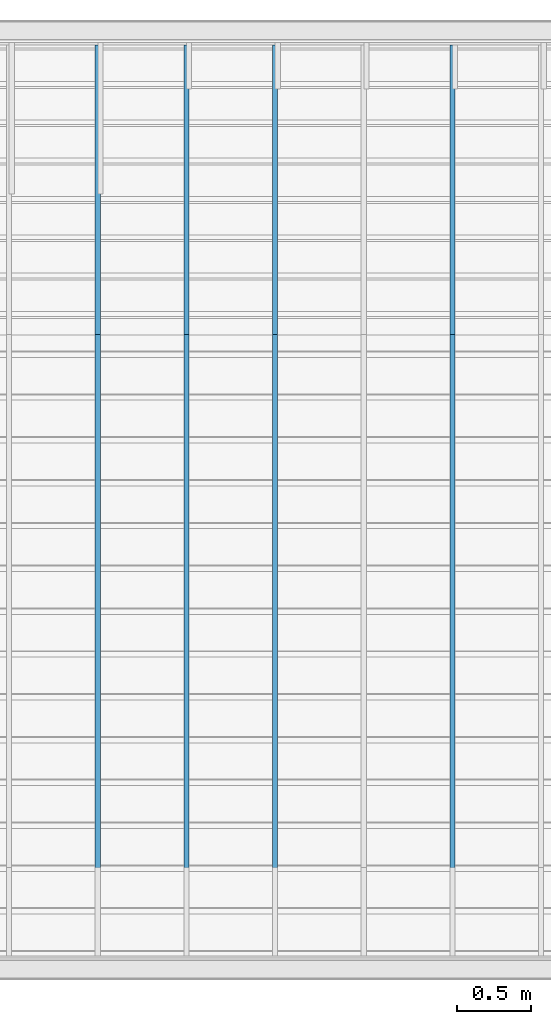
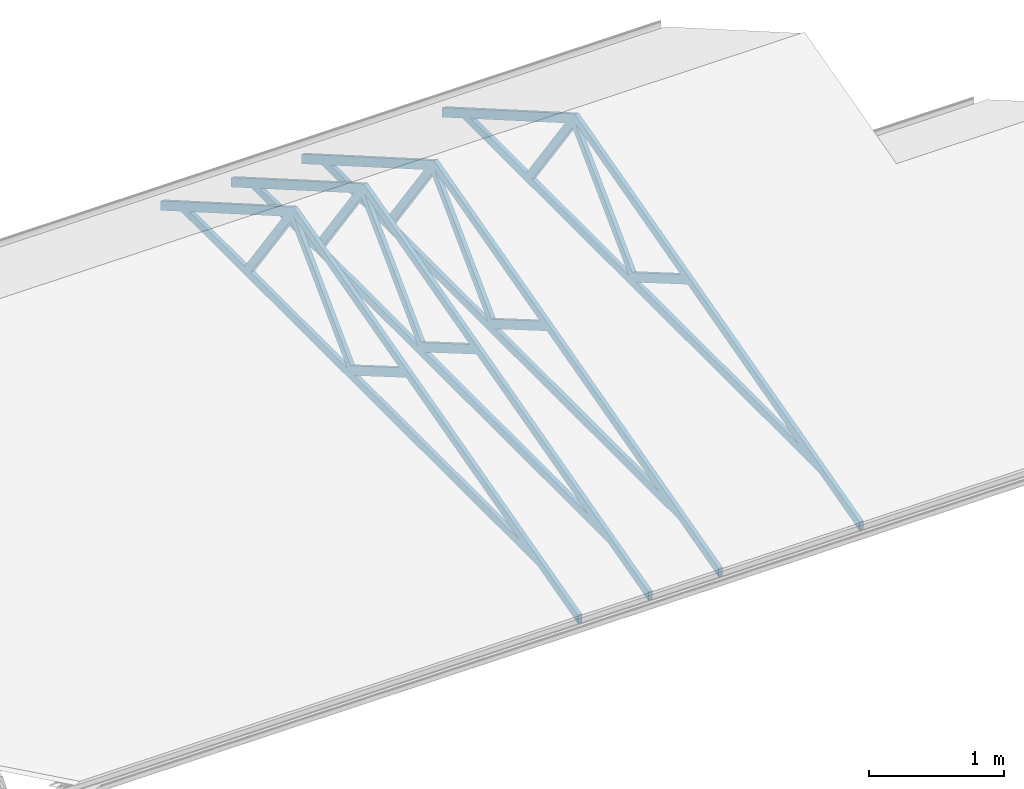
# One storey, part 7 of 12: 4 slabs.
"""IFC2X3 building model written with IfcOpenShell, lengths in millimetres."""

from ifc_helpers import new_model, entity, si_unit, converted_unit, money_unit, direction, frame, origin_with_axes, place, context, subcontext, project, spatial, faceted_brep, material, type_object, element, save


model = new_model("IFC2X3")

# Units and contexts
model_context = context("Model", 3, precision=1e-05, world=origin_with_axes(), true_north=direction((0.0, 1.0)))
body_context = subcontext(model_context, "Body", "Model", "MODEL_VIEW")
ifc_project = project(units=[si_unit("LENGTHUNIT", "METRE", prefix="MILLI"), si_unit("AREAUNIT", "SQUARE_METRE"), si_unit("VOLUMEUNIT", "CUBIC_METRE"), converted_unit("PLANEANGLEUNIT", "DEGREE", entity("IfcPlaneAngleMeasure", 0.0174532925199), si_unit("PLANEANGLEUNIT", "RADIAN"), dimensions=[0, 0, 0, 0, 0, 0, 0]), si_unit("SOLIDANGLEUNIT", "STERADIAN"), money_unit("AUD"), si_unit("TIMEUNIT", "SECOND"), si_unit("MASSUNIT", "GRAM"), si_unit("THERMODYNAMICTEMPERATUREUNIT", "DEGREE_CELSIUS"), si_unit("LUMINOUSINTENSITYUNIT", "LUMEN")], contexts=[model_context])

# Site, building, storey
site_placement = place(None, origin_with_axes())
site = spatial("IfcSite", under=ifc_project, at=site_placement, Name="Lot 1. East Hills", CompositionType="ELEMENT")
building_placement = place(site_placement, origin_with_axes())
building = spatial("IfcBuilding", under=site, at=building_placement, Name="Proposed Units 7 & 8", CompositionType="ELEMENT")
storey_placement = place(building_placement, frame((0.0, 0.0, 8395.0), z_axis=(0.0, 0.0, 1.0), x_axis=(1.0, 0.0, 0.0)))
storey = spatial("IfcBuildingStorey", under=building, at=storey_placement, Name="Roof", CompositionType="ELEMENT", Elevation=8395.0)

# Slabs
ifc_material = material(Name="50 %")
slab_type = type_object("IfcSlabType", Name="Roof Trust large", PredefinedType="NOTDEFINED")
slab_1_placement = place(storey_placement, frame((13955.0, -3.11548540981, 0.0), z_axis=(0.0, 0.0, 1.0), x_axis=(-1.0, 0.0, 0.0)))
element("IfcSlab", 1, at=slab_1_placement, inside=storey, type_object=slab_type, material=ifc_material, Name="TRUST_04 - Roof Trust large - object -", PredefinedType="ROOF", context=body_context, shape_type="Brep", body=[
    faceted_brep([(0.0, 600.020035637, -160.773638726), (0.0, 600.020035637, -160.673638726), (35.0, 600.020035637, -160.673638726), (35.0, 600.020035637, -160.773638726), (0.0, 599.923443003, -160.747757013), (0.0, 0.0966282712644, -0.0259204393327), (0.0, 3.56373446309e-05, -3.87262417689e-05), (0.0, -0.0999643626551, -3.87262417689e-05), (0.0, -5264.89996436, -3.87262399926e-05), (0.0, -5264.99996436, -3.87262399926e-05), (0.0, -5265.08656691, -0.050038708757), (0.0, -5564.91336181, -173.155038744), (0.0, -5564.99996436, -173.205038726), (0.0, -5564.99996436, -173.105038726), (0.0, -5564.99996436, -86.7025387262), (0.0, -5564.99996436, -86.6025387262), (0.0, -5564.91336181, -86.552538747), (0.0, -3606.74656692, 1043.99496129), (0.0, -3606.65996436, 1044.04496127), (0.0, -3606.56337176, 1044.01907945), (0.0, 599.923443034, -83.102056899), (0.0, 600.020035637, -83.1279387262), (0.0, 600.020035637, -83.2279387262), (0.0, -279.899964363, 74.9999612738), (0.0, -279.996556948, 75.0258431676), (0.0, -1937.88337178, 519.25507938), (0.0, -1937.97996436, 519.280961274), (0.0, -1938.06635104, 519.230589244), (0.0, -2699.82357768, 75.0503333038), (0.0, -2699.90996436, 74.9999612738), (0.0, -2699.80996436, 74.9999612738), (0.0, -279.999964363, 74.9999612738), (0.0, -2039.93996436, 546.601961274), (0.0, -2040.03655692, 546.627843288), (0.0, -3595.96337181, 963.539079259), (0.0, -3596.05996436, 963.564961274), (0.0, -3595.98895391, 963.494551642), (0.0, -2755.09097481, 129.711370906), (0.0, -2755.01996436, 129.640961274), (0.0, -2754.93357759, 129.691333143), (0.0, -2040.02635114, 546.551589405), (0.0, -2806.42996436, 74.9999612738), (0.0, -2806.50097476, 75.0703709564), (0.0, -3640.32895396, 901.844551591), (0.0, -3640.39996436, 901.914961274), (0.0, -3640.45835547, 901.833779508), (0.0, -4235.11157326, 75.0811430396), (0.0, -4235.16996436, 74.9999612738), (0.0, -4235.06996436, 74.9999612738), (0.0, -2806.52996436, 74.9999612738), (0.0, -3751.98996436, 873.534961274), (0.0, -3752.07656695, 873.48496135), (0.0, -5135.00936178, 75.0499611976), (0.0, -5135.09596436, 74.9999612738), (0.0, -5134.99596436, 74.9999612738), (0.0, -4326.44996436, 74.9999612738), (0.0, -4326.34996436, 74.9999612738), (0.0, -4326.29157308, 75.0811429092), (0.0, -3752.04835565, 873.453779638), (35.0, 600.020035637, -83.2279387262), (35.0, 600.020035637, -83.1279387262), (35.0, 599.923443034, -83.102056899), (35.0, -3606.56337176, 1044.01907945), (35.0, -3606.65996436, 1044.04496127), (35.0, -3606.74656692, 1043.99496129), (35.0, -5564.91336181, -86.552538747), (35.0, -5564.99996436, -86.6025387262), (35.0, -5564.99996436, -86.7025387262), (35.0, -5564.99996436, -173.105038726), (35.0, -5564.99996436, -173.205038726), (35.0, -5564.91336181, -173.155038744), (35.0, -5265.08656691, -0.050038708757), (35.0, -5264.99996436, -3.87262399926e-05), (35.0, -5264.89996436, -3.87262399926e-05), (35.0, -0.0999643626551, -3.87262417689e-05), (35.0, 3.56373446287e-05, -3.87262417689e-05), (35.0, 0.0966282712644, -0.0259204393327), (35.0, 599.923443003, -160.747757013), (35.0, -279.899964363, 74.9999612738), (35.0, -279.999964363, 74.9999612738), (35.0, -2699.80996436, 74.9999612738), (35.0, -2699.90996436, 74.9999612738), (35.0, -2699.82357768, 75.0503333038), (35.0, -1938.06635104, 519.230589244), (35.0, -1937.97996436, 519.280961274), (35.0, -1937.88337178, 519.25507938), (35.0, -279.996556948, 75.0258431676), (35.0, -2039.93996436, 546.601961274), (35.0, -2040.02635114, 546.551589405), (35.0, -2754.93357759, 129.691333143), (35.0, -2755.01996436, 129.640961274), (35.0, -2755.09097481, 129.711370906), (35.0, -3595.98895391, 963.494551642), (35.0, -3596.05996436, 963.564961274), (35.0, -3595.96337181, 963.539079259), (35.0, -2040.03655692, 546.627843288), (35.0, -2806.42996436, 74.9999612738), (35.0, -2806.52996436, 74.9999612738), (35.0, -4235.06996436, 74.9999612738), (35.0, -4235.16996436, 74.9999612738), (35.0, -4235.11157326, 75.0811430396), (35.0, -3640.45835547, 901.833779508), (35.0, -3640.39996436, 901.914961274), (35.0, -3640.32895396, 901.844551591), (35.0, -2806.50097476, 75.0703709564), (35.0, -3751.98996436, 873.534961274), (35.0, -3752.04835565, 873.453779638), (35.0, -4326.29157308, 75.0811429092), (35.0, -4326.34996436, 74.9999612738), (35.0, -4326.44996436, 74.9999612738), (35.0, -5134.99596436, 74.9999612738), (35.0, -5135.09596436, 74.9999612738), (35.0, -5135.00936178, 75.0499611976), (35.0, -3752.07656695, 873.48496135)], [[[0, 1, 2, 3]], [[0, 4, 5, 6, 7, 8, 9, 10, 11, 12, 13, 14, 15, 16, 17, 18, 19, 20, 21, 22, 1], [23, 24, 25, 26, 27, 28, 29, 30, 31], [32, 33, 34, 35, 36, 37, 38, 39, 40], [41, 42, 43, 44, 45, 46, 47, 48, 49], [50, 51, 52, 53, 54, 55, 56, 57, 58]], [[1, 22, 59, 2]], [[3, 2, 59, 60, 61, 62, 63, 64, 65, 66, 67, 68, 69, 70, 71, 72, 73, 74, 75, 76, 77], [78, 79, 80, 81, 82, 83, 84, 85, 86], [87, 88, 89, 90, 91, 92, 93, 94, 95], [96, 97, 98, 99, 100, 101, 102, 103, 104], [105, 106, 107, 108, 109, 110, 111, 112, 113]], [[4, 0, 3, 77]], [[5, 4, 77, 76]], [[6, 5, 76, 75]], [[7, 6, 75, 74]], [[8, 7, 74, 73]], [[9, 8, 73, 72]], [[10, 9, 72, 71]], [[11, 10, 71, 70]], [[12, 11, 70, 69]], [[13, 12, 69, 68]], [[14, 13, 68, 67]], [[15, 14, 67, 66]], [[16, 15, 66, 65]], [[17, 16, 65, 64]], [[18, 17, 64, 63]], [[19, 18, 63, 62]], [[20, 19, 62, 61]], [[21, 20, 61, 60]], [[22, 21, 60, 59]], [[24, 23, 78, 86]], [[25, 24, 86, 85]], [[26, 25, 85, 84]], [[27, 26, 84, 83]], [[28, 27, 83, 82]], [[29, 28, 82, 81]], [[30, 29, 81, 80]], [[31, 30, 80, 79]], [[23, 31, 79, 78]], [[33, 32, 87, 95]], [[34, 33, 95, 94]], [[35, 34, 94, 93]], [[36, 35, 93, 92]], [[37, 36, 92, 91]], [[38, 37, 91, 90]], [[39, 38, 90, 89]], [[40, 39, 89, 88]], [[32, 40, 88, 87]], [[42, 41, 96, 104]], [[43, 42, 104, 103]], [[44, 43, 103, 102]], [[45, 44, 102, 101]], [[46, 45, 101, 100]], [[47, 46, 100, 99]], [[48, 47, 99, 98]], [[49, 48, 98, 97]], [[41, 49, 97, 96]], [[51, 50, 105, 113]], [[52, 51, 113, 112]], [[53, 52, 112, 111]], [[54, 53, 111, 110]], [[55, 54, 110, 109]], [[56, 55, 109, 108]], [[57, 56, 108, 107]], [[58, 57, 107, 106]], [[50, 58, 106, 105]]]),
])
slab_2_placement = place(storey_placement, frame((12755.0, -3.11548540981, 0.0), z_axis=(0.0, 0.0, 1.0), x_axis=(-1.0, 0.0, 0.0)))
element("IfcSlab", 2, at=slab_2_placement, inside=storey, type_object=slab_type, material=ifc_material, Name="TRUST_06 - Roof Trust large - object -", PredefinedType="ROOF", context=body_context, shape_type="Brep", body=[
    faceted_brep([(0.0, 600.020035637, -160.773638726), (0.0, 600.020035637, -160.673638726), (35.0, 600.020035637, -160.673638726), (35.0, 600.020035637, -160.773638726), (0.0, 599.923443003, -160.747757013), (0.0, 0.0966282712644, -0.0259204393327), (0.0, 3.56373446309e-05, -3.87262417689e-05), (0.0, -0.0999643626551, -3.87262417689e-05), (0.0, -5264.89996436, -3.87262399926e-05), (0.0, -5264.99996436, -3.87262399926e-05), (0.0, -5265.08656691, -0.050038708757), (0.0, -5564.91336181, -173.155038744), (0.0, -5564.99996436, -173.205038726), (0.0, -5564.99996436, -173.105038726), (0.0, -5564.99996436, -86.7025387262), (0.0, -5564.99996436, -86.6025387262), (0.0, -5564.91336181, -86.552538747), (0.0, -3606.74656692, 1043.99496129), (0.0, -3606.65996436, 1044.04496127), (0.0, -3606.56337176, 1044.01907945), (0.0, 599.923443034, -83.102056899), (0.0, 600.020035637, -83.1279387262), (0.0, 600.020035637, -83.2279387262), (0.0, -279.899964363, 74.9999612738), (0.0, -279.996556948, 75.0258431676), (0.0, -1937.88337178, 519.25507938), (0.0, -1937.97996436, 519.280961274), (0.0, -1938.06635104, 519.230589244), (0.0, -2699.82357768, 75.0503333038), (0.0, -2699.90996436, 74.9999612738), (0.0, -2699.80996436, 74.9999612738), (0.0, -279.999964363, 74.9999612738), (0.0, -2039.93996436, 546.601961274), (0.0, -2040.03655692, 546.627843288), (0.0, -3595.96337181, 963.539079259), (0.0, -3596.05996436, 963.564961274), (0.0, -3595.98895391, 963.494551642), (0.0, -2755.09097481, 129.711370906), (0.0, -2755.01996436, 129.640961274), (0.0, -2754.93357759, 129.691333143), (0.0, -2040.02635114, 546.551589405), (0.0, -2806.42996436, 74.9999612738), (0.0, -2806.50097476, 75.0703709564), (0.0, -3640.32895396, 901.844551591), (0.0, -3640.39996436, 901.914961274), (0.0, -3640.45835547, 901.833779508), (0.0, -4235.11157326, 75.0811430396), (0.0, -4235.16996436, 74.9999612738), (0.0, -4235.06996436, 74.9999612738), (0.0, -2806.52996436, 74.9999612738), (0.0, -3751.98996436, 873.534961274), (0.0, -3752.07656695, 873.48496135), (0.0, -5135.00936178, 75.0499611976), (0.0, -5135.09596436, 74.9999612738), (0.0, -5134.99596436, 74.9999612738), (0.0, -4326.44996436, 74.9999612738), (0.0, -4326.34996436, 74.9999612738), (0.0, -4326.29157308, 75.0811429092), (0.0, -3752.04835565, 873.453779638), (35.0, 600.020035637, -83.2279387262), (35.0, 600.020035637, -83.1279387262), (35.0, 599.923443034, -83.102056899), (35.0, -3606.56337176, 1044.01907945), (35.0, -3606.65996436, 1044.04496127), (35.0, -3606.74656692, 1043.99496129), (35.0, -5564.91336181, -86.552538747), (35.0, -5564.99996436, -86.6025387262), (35.0, -5564.99996436, -86.7025387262), (35.0, -5564.99996436, -173.105038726), (35.0, -5564.99996436, -173.205038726), (35.0, -5564.91336181, -173.155038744), (35.0, -5265.08656691, -0.050038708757), (35.0, -5264.99996436, -3.87262399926e-05), (35.0, -5264.89996436, -3.87262399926e-05), (35.0, -0.0999643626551, -3.87262417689e-05), (35.0, 3.56373446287e-05, -3.87262417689e-05), (35.0, 0.0966282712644, -0.0259204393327), (35.0, 599.923443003, -160.747757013), (35.0, -279.899964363, 74.9999612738), (35.0, -279.999964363, 74.9999612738), (35.0, -2699.80996436, 74.9999612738), (35.0, -2699.90996436, 74.9999612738), (35.0, -2699.82357768, 75.0503333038), (35.0, -1938.06635104, 519.230589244), (35.0, -1937.97996436, 519.280961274), (35.0, -1937.88337178, 519.25507938), (35.0, -279.996556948, 75.0258431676), (35.0, -2039.93996436, 546.601961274), (35.0, -2040.02635114, 546.551589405), (35.0, -2754.93357759, 129.691333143), (35.0, -2755.01996436, 129.640961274), (35.0, -2755.09097481, 129.711370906), (35.0, -3595.98895391, 963.494551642), (35.0, -3596.05996436, 963.564961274), (35.0, -3595.96337181, 963.539079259), (35.0, -2040.03655692, 546.627843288), (35.0, -2806.42996436, 74.9999612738), (35.0, -2806.52996436, 74.9999612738), (35.0, -4235.06996436, 74.9999612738), (35.0, -4235.16996436, 74.9999612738), (35.0, -4235.11157326, 75.0811430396), (35.0, -3640.45835547, 901.833779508), (35.0, -3640.39996436, 901.914961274), (35.0, -3640.32895396, 901.844551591), (35.0, -2806.50097476, 75.0703709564), (35.0, -3751.98996436, 873.534961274), (35.0, -3752.04835565, 873.453779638), (35.0, -4326.29157308, 75.0811429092), (35.0, -4326.34996436, 74.9999612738), (35.0, -4326.44996436, 74.9999612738), (35.0, -5134.99596436, 74.9999612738), (35.0, -5135.09596436, 74.9999612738), (35.0, -5135.00936178, 75.0499611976), (35.0, -3752.07656695, 873.48496135)], [[[0, 1, 2, 3]], [[0, 4, 5, 6, 7, 8, 9, 10, 11, 12, 13, 14, 15, 16, 17, 18, 19, 20, 21, 22, 1], [23, 24, 25, 26, 27, 28, 29, 30, 31], [32, 33, 34, 35, 36, 37, 38, 39, 40], [41, 42, 43, 44, 45, 46, 47, 48, 49], [50, 51, 52, 53, 54, 55, 56, 57, 58]], [[1, 22, 59, 2]], [[3, 2, 59, 60, 61, 62, 63, 64, 65, 66, 67, 68, 69, 70, 71, 72, 73, 74, 75, 76, 77], [78, 79, 80, 81, 82, 83, 84, 85, 86], [87, 88, 89, 90, 91, 92, 93, 94, 95], [96, 97, 98, 99, 100, 101, 102, 103, 104], [105, 106, 107, 108, 109, 110, 111, 112, 113]], [[4, 0, 3, 77]], [[5, 4, 77, 76]], [[6, 5, 76, 75]], [[7, 6, 75, 74]], [[8, 7, 74, 73]], [[9, 8, 73, 72]], [[10, 9, 72, 71]], [[11, 10, 71, 70]], [[12, 11, 70, 69]], [[13, 12, 69, 68]], [[14, 13, 68, 67]], [[15, 14, 67, 66]], [[16, 15, 66, 65]], [[17, 16, 65, 64]], [[18, 17, 64, 63]], [[19, 18, 63, 62]], [[20, 19, 62, 61]], [[21, 20, 61, 60]], [[22, 21, 60, 59]], [[24, 23, 78, 86]], [[25, 24, 86, 85]], [[26, 25, 85, 84]], [[27, 26, 84, 83]], [[28, 27, 83, 82]], [[29, 28, 82, 81]], [[30, 29, 81, 80]], [[31, 30, 80, 79]], [[23, 31, 79, 78]], [[33, 32, 87, 95]], [[34, 33, 95, 94]], [[35, 34, 94, 93]], [[36, 35, 93, 92]], [[37, 36, 92, 91]], [[38, 37, 91, 90]], [[39, 38, 90, 89]], [[40, 39, 89, 88]], [[32, 40, 88, 87]], [[42, 41, 96, 104]], [[43, 42, 104, 103]], [[44, 43, 103, 102]], [[45, 44, 102, 101]], [[46, 45, 101, 100]], [[47, 46, 100, 99]], [[48, 47, 99, 98]], [[49, 48, 98, 97]], [[41, 49, 97, 96]], [[51, 50, 105, 113]], [[52, 51, 113, 112]], [[53, 52, 112, 111]], [[54, 53, 111, 110]], [[55, 54, 110, 109]], [[56, 55, 109, 108]], [[57, 56, 108, 107]], [[58, 57, 107, 106]], [[50, 58, 106, 105]]]),
])
slab_3_placement = place(storey_placement, frame((12155.0, -3.11548540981, 0.0), z_axis=(0.0, 0.0, 1.0), x_axis=(-1.0, 0.0, 0.0)))
element("IfcSlab", 3, at=slab_3_placement, inside=storey, type_object=slab_type, material=ifc_material, Name="TRUST_07 - Roof Trust large - object -", PredefinedType="ROOF", context=body_context, shape_type="Brep", body=[
    faceted_brep([(0.0, 600.020035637, -160.773638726), (0.0, 600.020035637, -160.673638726), (35.0, 600.020035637, -160.673638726), (35.0, 600.020035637, -160.773638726), (0.0, 599.923443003, -160.747757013), (0.0, 0.0966282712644, -0.0259204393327), (0.0, 3.56373446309e-05, -3.87262417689e-05), (0.0, -0.0999643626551, -3.87262417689e-05), (0.0, -5264.89996436, -3.87262399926e-05), (0.0, -5264.99996436, -3.87262399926e-05), (0.0, -5265.08656691, -0.050038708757), (0.0, -5564.91336181, -173.155038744), (0.0, -5564.99996436, -173.205038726), (0.0, -5564.99996436, -173.105038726), (0.0, -5564.99996436, -86.7025387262), (0.0, -5564.99996436, -86.6025387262), (0.0, -5564.91336181, -86.552538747), (0.0, -3606.74656692, 1043.99496129), (0.0, -3606.65996436, 1044.04496127), (0.0, -3606.56337176, 1044.01907945), (0.0, 599.923443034, -83.102056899), (0.0, 600.020035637, -83.1279387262), (0.0, 600.020035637, -83.2279387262), (0.0, -279.899964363, 74.9999612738), (0.0, -279.996556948, 75.0258431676), (0.0, -1937.88337178, 519.25507938), (0.0, -1937.97996436, 519.280961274), (0.0, -1938.06635104, 519.230589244), (0.0, -2699.82357768, 75.0503333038), (0.0, -2699.90996436, 74.9999612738), (0.0, -2699.80996436, 74.9999612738), (0.0, -279.999964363, 74.9999612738), (0.0, -2039.93996436, 546.601961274), (0.0, -2040.03655692, 546.627843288), (0.0, -3595.96337181, 963.539079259), (0.0, -3596.05996436, 963.564961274), (0.0, -3595.98895391, 963.494551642), (0.0, -2755.09097481, 129.711370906), (0.0, -2755.01996436, 129.640961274), (0.0, -2754.93357759, 129.691333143), (0.0, -2040.02635114, 546.551589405), (0.0, -2806.42996436, 74.9999612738), (0.0, -2806.50097476, 75.0703709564), (0.0, -3640.32895396, 901.844551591), (0.0, -3640.39996436, 901.914961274), (0.0, -3640.45835547, 901.833779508), (0.0, -4235.11157326, 75.0811430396), (0.0, -4235.16996436, 74.9999612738), (0.0, -4235.06996436, 74.9999612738), (0.0, -2806.52996436, 74.9999612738), (0.0, -3751.98996436, 873.534961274), (0.0, -3752.07656695, 873.48496135), (0.0, -5135.00936178, 75.0499611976), (0.0, -5135.09596436, 74.9999612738), (0.0, -5134.99596436, 74.9999612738), (0.0, -4326.44996436, 74.9999612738), (0.0, -4326.34996436, 74.9999612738), (0.0, -4326.29157308, 75.0811429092), (0.0, -3752.04835565, 873.453779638), (35.0, 600.020035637, -83.2279387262), (35.0, 600.020035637, -83.1279387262), (35.0, 599.923443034, -83.102056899), (35.0, -3606.56337176, 1044.01907945), (35.0, -3606.65996436, 1044.04496127), (35.0, -3606.74656692, 1043.99496129), (35.0, -5564.91336181, -86.552538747), (35.0, -5564.99996436, -86.6025387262), (35.0, -5564.99996436, -86.7025387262), (35.0, -5564.99996436, -173.105038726), (35.0, -5564.99996436, -173.205038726), (35.0, -5564.91336181, -173.155038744), (35.0, -5265.08656691, -0.050038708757), (35.0, -5264.99996436, -3.87262399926e-05), (35.0, -5264.89996436, -3.87262399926e-05), (35.0, -0.0999643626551, -3.87262417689e-05), (35.0, 3.56373446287e-05, -3.87262417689e-05), (35.0, 0.0966282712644, -0.0259204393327), (35.0, 599.923443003, -160.747757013), (35.0, -279.899964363, 74.9999612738), (35.0, -279.999964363, 74.9999612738), (35.0, -2699.80996436, 74.9999612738), (35.0, -2699.90996436, 74.9999612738), (35.0, -2699.82357768, 75.0503333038), (35.0, -1938.06635104, 519.230589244), (35.0, -1937.97996436, 519.280961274), (35.0, -1937.88337178, 519.25507938), (35.0, -279.996556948, 75.0258431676), (35.0, -2039.93996436, 546.601961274), (35.0, -2040.02635114, 546.551589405), (35.0, -2754.93357759, 129.691333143), (35.0, -2755.01996436, 129.640961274), (35.0, -2755.09097481, 129.711370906), (35.0, -3595.98895391, 963.494551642), (35.0, -3596.05996436, 963.564961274), (35.0, -3595.96337181, 963.539079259), (35.0, -2040.03655692, 546.627843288), (35.0, -2806.42996436, 74.9999612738), (35.0, -2806.52996436, 74.9999612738), (35.0, -4235.06996436, 74.9999612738), (35.0, -4235.16996436, 74.9999612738), (35.0, -4235.11157326, 75.0811430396), (35.0, -3640.45835547, 901.833779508), (35.0, -3640.39996436, 901.914961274), (35.0, -3640.32895396, 901.844551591), (35.0, -2806.50097476, 75.0703709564), (35.0, -3751.98996436, 873.534961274), (35.0, -3752.04835565, 873.453779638), (35.0, -4326.29157308, 75.0811429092), (35.0, -4326.34996436, 74.9999612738), (35.0, -4326.44996436, 74.9999612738), (35.0, -5134.99596436, 74.9999612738), (35.0, -5135.09596436, 74.9999612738), (35.0, -5135.00936178, 75.0499611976), (35.0, -3752.07656695, 873.48496135)], [[[0, 1, 2, 3]], [[0, 4, 5, 6, 7, 8, 9, 10, 11, 12, 13, 14, 15, 16, 17, 18, 19, 20, 21, 22, 1], [23, 24, 25, 26, 27, 28, 29, 30, 31], [32, 33, 34, 35, 36, 37, 38, 39, 40], [41, 42, 43, 44, 45, 46, 47, 48, 49], [50, 51, 52, 53, 54, 55, 56, 57, 58]], [[1, 22, 59, 2]], [[3, 2, 59, 60, 61, 62, 63, 64, 65, 66, 67, 68, 69, 70, 71, 72, 73, 74, 75, 76, 77], [78, 79, 80, 81, 82, 83, 84, 85, 86], [87, 88, 89, 90, 91, 92, 93, 94, 95], [96, 97, 98, 99, 100, 101, 102, 103, 104], [105, 106, 107, 108, 109, 110, 111, 112, 113]], [[4, 0, 3, 77]], [[5, 4, 77, 76]], [[6, 5, 76, 75]], [[7, 6, 75, 74]], [[8, 7, 74, 73]], [[9, 8, 73, 72]], [[10, 9, 72, 71]], [[11, 10, 71, 70]], [[12, 11, 70, 69]], [[13, 12, 69, 68]], [[14, 13, 68, 67]], [[15, 14, 67, 66]], [[16, 15, 66, 65]], [[17, 16, 65, 64]], [[18, 17, 64, 63]], [[19, 18, 63, 62]], [[20, 19, 62, 61]], [[21, 20, 61, 60]], [[22, 21, 60, 59]], [[24, 23, 78, 86]], [[25, 24, 86, 85]], [[26, 25, 85, 84]], [[27, 26, 84, 83]], [[28, 27, 83, 82]], [[29, 28, 82, 81]], [[30, 29, 81, 80]], [[31, 30, 80, 79]], [[23, 31, 79, 78]], [[33, 32, 87, 95]], [[34, 33, 95, 94]], [[35, 34, 94, 93]], [[36, 35, 93, 92]], [[37, 36, 92, 91]], [[38, 37, 91, 90]], [[39, 38, 90, 89]], [[40, 39, 89, 88]], [[32, 40, 88, 87]], [[42, 41, 96, 104]], [[43, 42, 104, 103]], [[44, 43, 103, 102]], [[45, 44, 102, 101]], [[46, 45, 101, 100]], [[47, 46, 100, 99]], [[48, 47, 99, 98]], [[49, 48, 98, 97]], [[41, 49, 97, 96]], [[51, 50, 105, 113]], [[52, 51, 113, 112]], [[53, 52, 112, 111]], [[54, 53, 111, 110]], [[55, 54, 110, 109]], [[56, 55, 109, 108]], [[57, 56, 108, 107]], [[58, 57, 107, 106]], [[50, 58, 106, 105]]]),
])
slab_4_placement = place(storey_placement, frame((11555.0, -3.11548540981, 0.0), z_axis=(0.0, 0.0, 1.0), x_axis=(-1.0, 0.0, 0.0)))
element("IfcSlab", 4, at=slab_4_placement, inside=storey, type_object=slab_type, material=ifc_material, Name="TRUST_08 - Roof Trust large - object -", PredefinedType="ROOF", context=body_context, shape_type="Brep", body=[
    faceted_brep([(0.0, 600.020035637, -160.773638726), (0.0, 600.020035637, -160.673638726), (35.0, 600.020035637, -160.673638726), (35.0, 600.020035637, -160.773638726), (0.0, 599.923443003, -160.747757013), (0.0, 0.0966282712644, -0.0259204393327), (0.0, 3.56373446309e-05, -3.87262417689e-05), (0.0, -0.0999643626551, -3.87262417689e-05), (0.0, -5264.89996436, -3.87262399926e-05), (0.0, -5264.99996436, -3.87262399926e-05), (0.0, -5265.08656691, -0.050038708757), (0.0, -5564.91336181, -173.155038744), (0.0, -5564.99996436, -173.205038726), (0.0, -5564.99996436, -173.105038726), (0.0, -5564.99996436, -86.7025387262), (0.0, -5564.99996436, -86.6025387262), (0.0, -5564.91336181, -86.552538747), (0.0, -3606.74656692, 1043.99496129), (0.0, -3606.65996436, 1044.04496127), (0.0, -3606.56337176, 1044.01907945), (0.0, 599.923443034, -83.102056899), (0.0, 600.020035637, -83.1279387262), (0.0, 600.020035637, -83.2279387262), (0.0, -279.899964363, 74.9999612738), (0.0, -279.996556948, 75.0258431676), (0.0, -1937.88337178, 519.25507938), (0.0, -1937.97996436, 519.280961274), (0.0, -1938.06635104, 519.230589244), (0.0, -2699.82357768, 75.0503333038), (0.0, -2699.90996436, 74.9999612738), (0.0, -2699.80996436, 74.9999612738), (0.0, -279.999964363, 74.9999612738), (0.0, -2039.93996436, 546.601961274), (0.0, -2040.03655692, 546.627843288), (0.0, -3595.96337181, 963.539079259), (0.0, -3596.05996436, 963.564961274), (0.0, -3595.98895391, 963.494551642), (0.0, -2755.09097481, 129.711370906), (0.0, -2755.01996436, 129.640961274), (0.0, -2754.93357759, 129.691333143), (0.0, -2040.02635114, 546.551589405), (0.0, -2806.42996436, 74.9999612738), (0.0, -2806.50097476, 75.0703709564), (0.0, -3640.32895396, 901.844551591), (0.0, -3640.39996436, 901.914961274), (0.0, -3640.45835547, 901.833779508), (0.0, -4235.11157326, 75.0811430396), (0.0, -4235.16996436, 74.9999612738), (0.0, -4235.06996436, 74.9999612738), (0.0, -2806.52996436, 74.9999612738), (0.0, -3751.98996436, 873.534961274), (0.0, -3752.07656695, 873.48496135), (0.0, -5135.00936178, 75.0499611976), (0.0, -5135.09596436, 74.9999612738), (0.0, -5134.99596436, 74.9999612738), (0.0, -4326.44996436, 74.9999612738), (0.0, -4326.34996436, 74.9999612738), (0.0, -4326.29157308, 75.0811429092), (0.0, -3752.04835565, 873.453779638), (35.0, 600.020035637, -83.2279387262), (35.0, 600.020035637, -83.1279387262), (35.0, 599.923443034, -83.102056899), (35.0, -3606.56337176, 1044.01907945), (35.0, -3606.65996436, 1044.04496127), (35.0, -3606.74656692, 1043.99496129), (35.0, -5564.91336181, -86.552538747), (35.0, -5564.99996436, -86.6025387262), (35.0, -5564.99996436, -86.7025387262), (35.0, -5564.99996436, -173.105038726), (35.0, -5564.99996436, -173.205038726), (35.0, -5564.91336181, -173.155038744), (35.0, -5265.08656691, -0.050038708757), (35.0, -5264.99996436, -3.87262399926e-05), (35.0, -5264.89996436, -3.87262399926e-05), (35.0, -0.0999643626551, -3.87262417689e-05), (35.0, 3.56373446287e-05, -3.87262417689e-05), (35.0, 0.0966282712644, -0.0259204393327), (35.0, 599.923443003, -160.747757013), (35.0, -279.899964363, 74.9999612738), (35.0, -279.999964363, 74.9999612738), (35.0, -2699.80996436, 74.9999612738), (35.0, -2699.90996436, 74.9999612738), (35.0, -2699.82357768, 75.0503333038), (35.0, -1938.06635104, 519.230589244), (35.0, -1937.97996436, 519.280961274), (35.0, -1937.88337178, 519.25507938), (35.0, -279.996556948, 75.0258431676), (35.0, -2039.93996436, 546.601961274), (35.0, -2040.02635114, 546.551589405), (35.0, -2754.93357759, 129.691333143), (35.0, -2755.01996436, 129.640961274), (35.0, -2755.09097481, 129.711370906), (35.0, -3595.98895391, 963.494551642), (35.0, -3596.05996436, 963.564961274), (35.0, -3595.96337181, 963.539079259), (35.0, -2040.03655692, 546.627843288), (35.0, -2806.42996436, 74.9999612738), (35.0, -2806.52996436, 74.9999612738), (35.0, -4235.06996436, 74.9999612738), (35.0, -4235.16996436, 74.9999612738), (35.0, -4235.11157326, 75.0811430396), (35.0, -3640.45835547, 901.833779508), (35.0, -3640.39996436, 901.914961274), (35.0, -3640.32895396, 901.844551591), (35.0, -2806.50097476, 75.0703709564), (35.0, -3751.98996436, 873.534961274), (35.0, -3752.04835565, 873.453779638), (35.0, -4326.29157308, 75.0811429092), (35.0, -4326.34996436, 74.9999612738), (35.0, -4326.44996436, 74.9999612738), (35.0, -5134.99596436, 74.9999612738), (35.0, -5135.09596436, 74.9999612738), (35.0, -5135.00936178, 75.0499611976), (35.0, -3752.07656695, 873.48496135)], [[[0, 1, 2, 3]], [[0, 4, 5, 6, 7, 8, 9, 10, 11, 12, 13, 14, 15, 16, 17, 18, 19, 20, 21, 22, 1], [23, 24, 25, 26, 27, 28, 29, 30, 31], [32, 33, 34, 35, 36, 37, 38, 39, 40], [41, 42, 43, 44, 45, 46, 47, 48, 49], [50, 51, 52, 53, 54, 55, 56, 57, 58]], [[1, 22, 59, 2]], [[3, 2, 59, 60, 61, 62, 63, 64, 65, 66, 67, 68, 69, 70, 71, 72, 73, 74, 75, 76, 77], [78, 79, 80, 81, 82, 83, 84, 85, 86], [87, 88, 89, 90, 91, 92, 93, 94, 95], [96, 97, 98, 99, 100, 101, 102, 103, 104], [105, 106, 107, 108, 109, 110, 111, 112, 113]], [[4, 0, 3, 77]], [[5, 4, 77, 76]], [[6, 5, 76, 75]], [[7, 6, 75, 74]], [[8, 7, 74, 73]], [[9, 8, 73, 72]], [[10, 9, 72, 71]], [[11, 10, 71, 70]], [[12, 11, 70, 69]], [[13, 12, 69, 68]], [[14, 13, 68, 67]], [[15, 14, 67, 66]], [[16, 15, 66, 65]], [[17, 16, 65, 64]], [[18, 17, 64, 63]], [[19, 18, 63, 62]], [[20, 19, 62, 61]], [[21, 20, 61, 60]], [[22, 21, 60, 59]], [[24, 23, 78, 86]], [[25, 24, 86, 85]], [[26, 25, 85, 84]], [[27, 26, 84, 83]], [[28, 27, 83, 82]], [[29, 28, 82, 81]], [[30, 29, 81, 80]], [[31, 30, 80, 79]], [[23, 31, 79, 78]], [[33, 32, 87, 95]], [[34, 33, 95, 94]], [[35, 34, 94, 93]], [[36, 35, 93, 92]], [[37, 36, 92, 91]], [[38, 37, 91, 90]], [[39, 38, 90, 89]], [[40, 39, 89, 88]], [[32, 40, 88, 87]], [[42, 41, 96, 104]], [[43, 42, 104, 103]], [[44, 43, 103, 102]], [[45, 44, 102, 101]], [[46, 45, 101, 100]], [[47, 46, 100, 99]], [[48, 47, 99, 98]], [[49, 48, 98, 97]], [[41, 49, 97, 96]], [[51, 50, 105, 113]], [[52, 51, 113, 112]], [[53, 52, 112, 111]], [[54, 53, 111, 110]], [[55, 54, 110, 109]], [[56, 55, 109, 108]], [[57, 56, 108, 107]], [[58, 57, 107, 106]], [[50, 58, 106, 105]]]),
])

save(model, "model.ifc")
